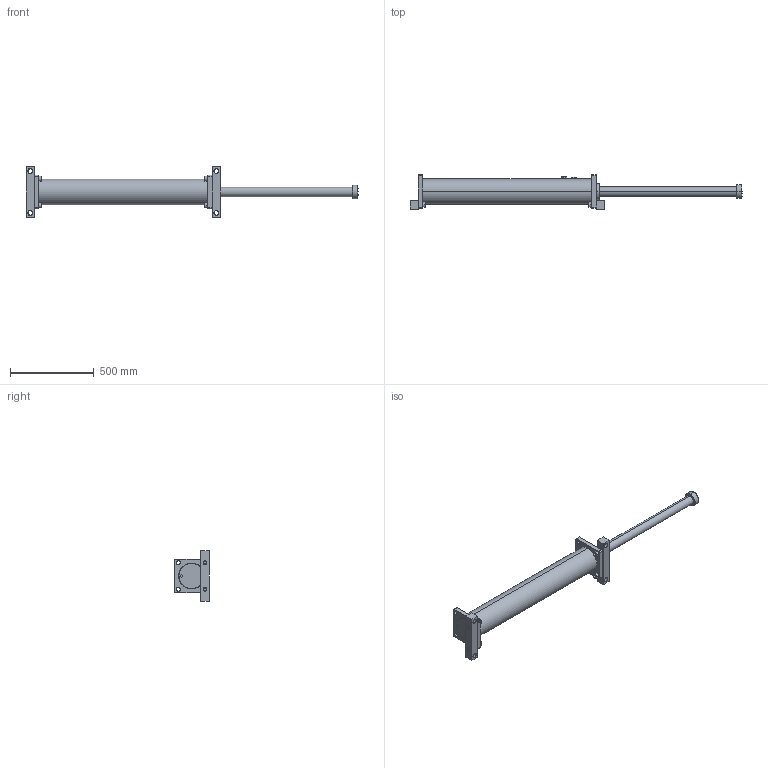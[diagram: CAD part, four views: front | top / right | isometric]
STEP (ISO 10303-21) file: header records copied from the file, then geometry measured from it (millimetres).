
FILE_DESCRIPTION (( 'STEP AP214' ), '1' );
FILE_NAME ('LDD3.5X32.STEP', '2019-01-16T08:24:49', ( 'user' ), ( 'Microsoft' ), 'SwSTEP 2.0', 'SolidWorks 2016', '' );
FILE_SCHEMA (( 'AUTOMOTIVE_DESIGN' ));
Length unit declared in the file: inch
Products named in the file (1): LDD3.5X32
Bounding box: 1983.4 x 205 x 300 mm (x, y, z)
Surface area: 1039029.5 mm2 (no closed solid volume)
Topology: 0 solids, 22 shells, 257 faces, 711 edges, 480 vertices
Faces by surface type: plane 88, cylinder 86, cone 51, bspline 32
Entity records: 14528 total; most frequent: CARTESIAN_POINT 7990, DIRECTION 1382, ORIENTED_EDGE 1264, EDGE_CURVE 711, AXIS2_PLACEMENT_3D 540, VERTEX_POINT 480, CIRCLE 314, EDGE_LOOP 313
